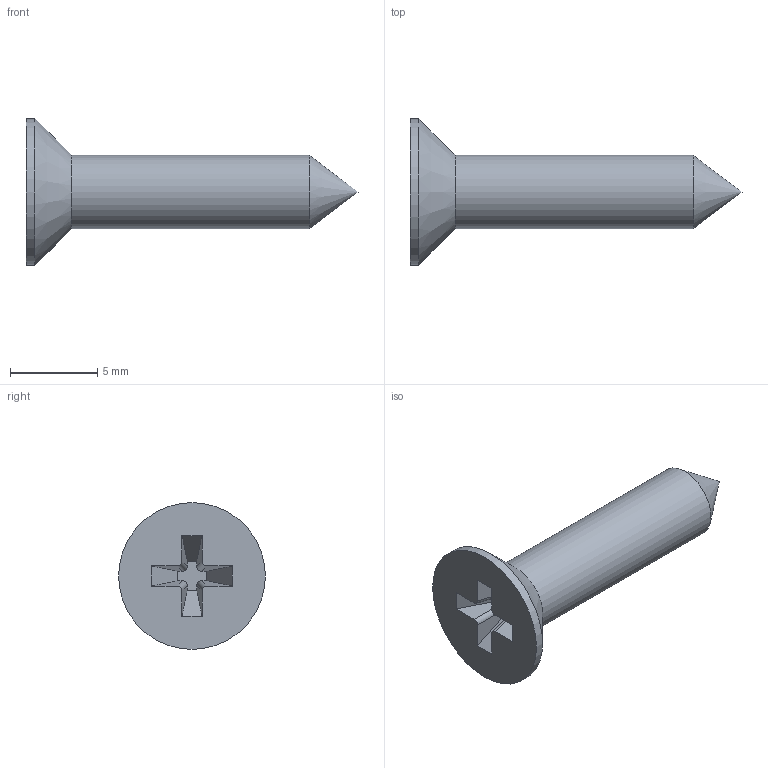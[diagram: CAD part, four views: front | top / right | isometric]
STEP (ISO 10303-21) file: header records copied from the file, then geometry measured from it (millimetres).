
FILE_DESCRIPTION (( 'STEP AP203' ), '1' );
FILE_NAME ('Vis à tôle tête conique empreinte cruciforme DIN 7050 - ST4.2 x 19 - C - H.STEP', '2026-06-24T07:29:48', ( '' ), ( '' ), 'SwSTEP 2.0', 'SolidWorks 2024', '' );
FILE_SCHEMA (( 'CONFIG_CONTROL_DESIGN' ));
Length unit declared in the file: millimetre
Products named in the file (1): Vis à tôle tête conique empreinte cruciforme DIN 7050 - ST4.2 x 19 - C - H_Tapping screw DIN 7982-ST4.2x19-C-H-C
Bounding box: 19 x 8.4 x 8.4 mm (x, y, z)
Volume: 286.8 mm3; surface area: 349.5 mm2
Topology: 1 solids, 1 shells, 22 faces, 58 edges, 38 vertices
Faces by surface type: plane 14, bspline 4, cylinder 2, cone 2
Full cylindrical faces by diameter (mm): 4.2 x1, 8.4 x1
Entity records: 755 total; most frequent: CARTESIAN_POINT 175, ORIENTED_EDGE 104, DIRECTION 94, EDGE_CURVE 52, LINE 40, VECTOR 40, VERTEX_POINT 36, AXIS2_PLACEMENT_3D 27
